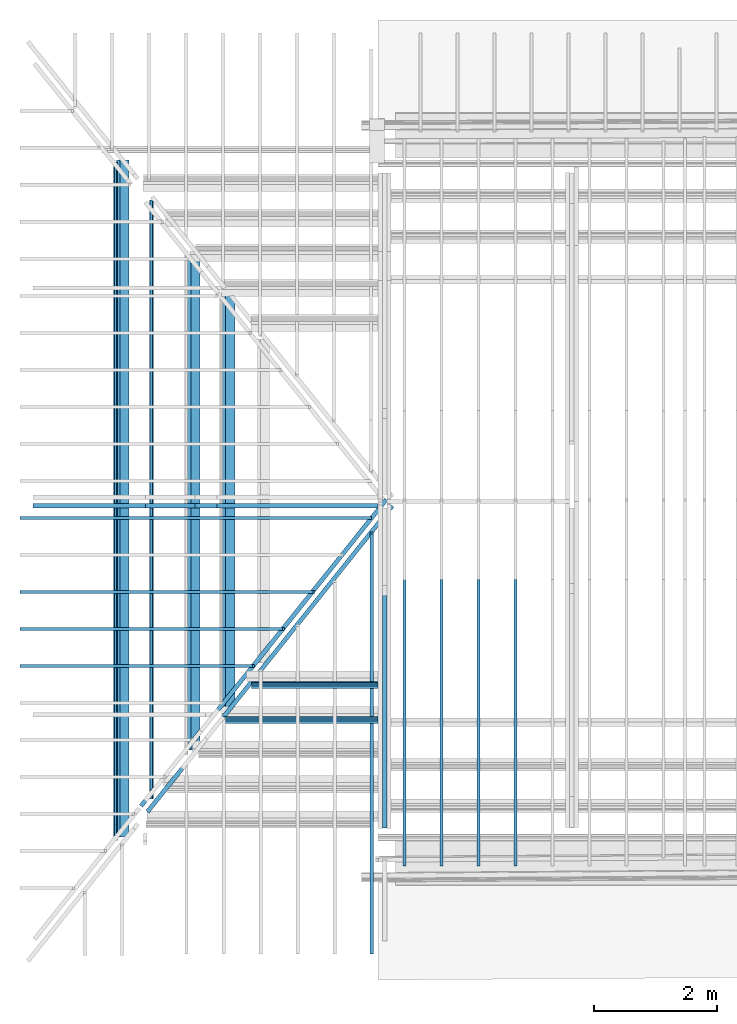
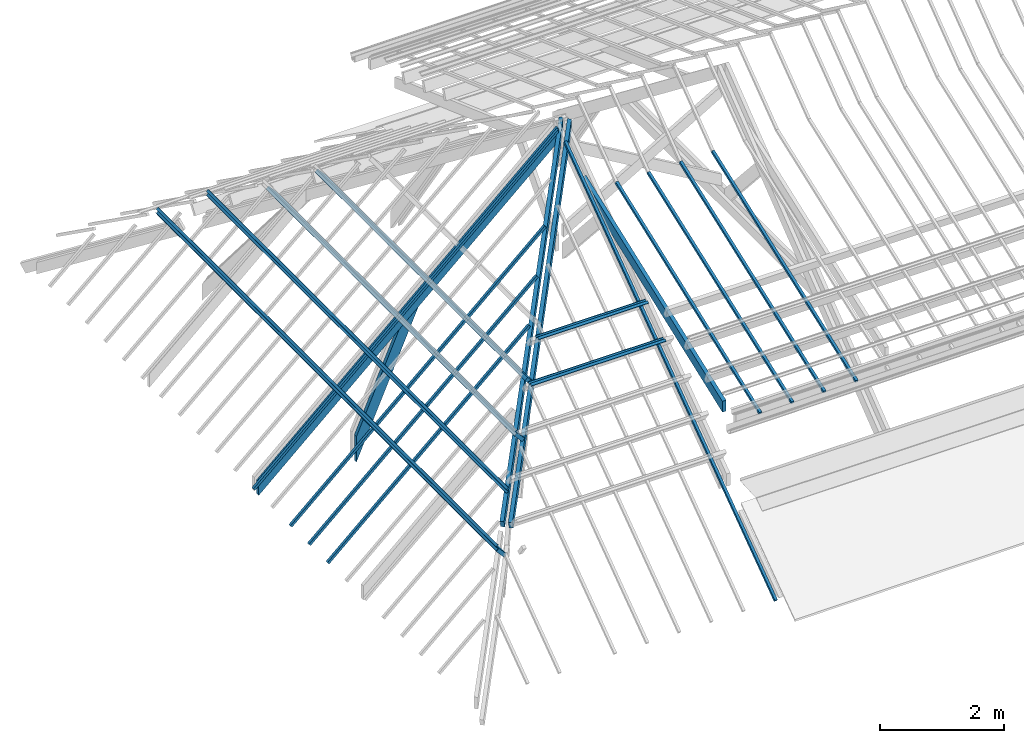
# One storey, part 2 of 18: 21 beams.
"""IFC2X3 building model written with IfcOpenShell, lengths in centimetres."""

from ifc_helpers import new_model, entity, si_unit, converted_unit, direction, frame, frame_2d, origin, origin_2d_with_axis, place, context, subcontext, project, spatial, polyline, circle_curve, parameter, trimmed, segment, composite_curve, rectangle, outline, extrude, clip, halfspace, material, type_object, element, save


model = new_model("IFC2X3")

# Units and contexts
model_context = context("Model", 3, precision=0.001, world=frame((0.0, 0.0, 13090.0)), true_north=direction((6.123233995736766e-17, 1.0)))
body_context = subcontext(model_context, "Body", "Model", "MODEL_VIEW")
ifc_project = project(units=[si_unit("LENGTHUNIT", "METRE", prefix="CENTI"), si_unit("AREAUNIT", "SQUARE_METRE"), si_unit("VOLUMEUNIT", "CUBIC_METRE"), converted_unit("PLANEANGLEUNIT", "DEGREE", entity("IfcPlaneAngleMeasure", 0.017453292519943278), si_unit("PLANEANGLEUNIT", "RADIAN"), dimensions=[0, 0, 0, 0, 0, 0, 0])], contexts=[model_context])

# Site, building, storey
site_placement = place(None, origin())
site = spatial("IfcSite", under=ifc_project, at=site_placement, Name="Default", CompositionType="ELEMENT")
building_placement = place(site_placement, origin())
building = spatial("IfcBuilding", under=site, at=building_placement, Name="e 39 logements et 22 maisons relais", CompositionType="ELEMENT")
storey_placement = place(building_placement, frame((0.0, 0.0, 610.0)))
storey = spatial("IfcBuildingStorey", under=building, at=storey_placement, Name="R+2", CompositionType="ELEMENT", Elevation=609.9999999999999)

# Beams
ifc_material_1 = material(Name="Bois - Bois de construction de dimensions courantes")
beam_type_1 = type_object("IfcBeamType", Name="Poutre - Bois de construction de dimensions courantes:70 220", PredefinedType="BEAM")
beam_1_placement = place(storey_placement, frame((-1229.478793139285, 514.0076677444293, -23.68763823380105), z_axis=(0.0, 0.0, 1.0), x_axis=(0.0, -1.0, 0.0)))
element("IfcBeam", 1, at=beam_1_placement, inside=storey, type_object=beam_type_1, material=ifc_material_1, Name="Poutre - Bois de construction de dimensions courantes:70 220", ObjectType="Poutre - Bois de construction de dimensions courantes:70 220", context=body_context, shape_type="SweptSolid", body=[
    extrude(rectangle(XDim=22.00000000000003, YDim=7.00000000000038, at=origin_2d_with_axis()), frame((136.4533911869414, 7.3604366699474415, -8.17459308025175), z_axis=(1.0, 0.0, 0.0), x_axis=(0.0, -0.6691306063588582, 0.7431448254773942)), (0.0, 0.0, 1.0), 803.6265658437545),
])
beam_2_placement = place(storey_placement, frame((-1172.8778374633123, 514.0076677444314, 27.030194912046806), z_axis=(0.0, 0.0, 1.0), x_axis=(0.0, -1.0, 0.0)))
element("IfcBeam", 2, at=beam_2_placement, inside=storey, type_object=beam_type_1, material=ifc_material_1, Name="Poutre - Bois de construction de dimensions courantes:70 220", ObjectType="Poutre - Bois de construction de dimensions courantes:70 220", context=body_context, shape_type="SweptSolid", body=[
    extrude(rectangle(XDim=22.00000000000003, YDim=7.000000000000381, at=origin_2d_with_axis()), frame((196.89081058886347, 7.360436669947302, -8.174593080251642), z_axis=(1.0, 0.0, 0.0), x_axis=(0.0, -0.6691306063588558, 0.7431448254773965)), (0.0, 0.0, 1.0), 679.797427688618),
])
beam_3_placement = place(storey_placement, frame((-1344.3936905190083, 514.0076677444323, -126.65824220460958), z_axis=(0.0, 0.0, 1.0), x_axis=(0.0, -1.0, 0.0)))
element("IfcBeam", 3, at=beam_3_placement, inside=storey, type_object=beam_type_1, material=ifc_material_1, Name="Poutre - Bois de construction de dimensions courantes:70 220", ObjectType="Poutre - Bois de construction de dimensions courantes:70 220", context=body_context, shape_type="SweptSolid", body=[
    extrude(rectangle(XDim=21.999999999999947, YDim=7.00000000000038, at=frame_2d((5.240252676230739e-14, 9.85878045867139e-14), x_axis=(1.0, 0.0))), frame((-16.402480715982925, 7.360436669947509, -8.174593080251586), z_axis=(1.0, 0.0, 0.0), x_axis=(0.0, -0.6691306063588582, 0.7431448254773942)), (0.0, 0.0, 1.0), 1097.1270014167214),
])
beam_type_2 = type_object("IfcBeamType", Name="Poutre - Bois de construction de dimensions courantes:70 200", PredefinedType="BEAM")
beam_4_placement = place(storey_placement, frame((-912.5294746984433, -680.6417512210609, 68.82913519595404), z_axis=(0.0, -0.3498184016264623, 0.9368175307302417), x_axis=(0.0, 0.9368175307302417, 0.3498184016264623)))
element("IfcBeam", 4, at=beam_4_placement, inside=storey, type_object=beam_type_2, material=ifc_material_1, Name="Poutre - Bois de construction de dimensions courantes:70 200", ObjectType="Poutre - Bois de construction de dimensions courantes:70 200", context=body_context, shape_type="Clipping", body=[
    clip(clip(extrude(rectangle(XDim=20.000000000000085, YDim=7.000000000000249, at=frame_2d((-5.395683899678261e-14, 0.0), x_axis=(0.0, 1.0))), frame((91.61969437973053, 0.0, -112.0), z_axis=(1.0, 0.0, 0.0), x_axis=(0.0, 1.0, 0.0)), (0.0, 0.0, 1.0), 491.12343439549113), halfspace(frame((394.6619849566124, 717.1728512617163, -163.1963336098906), z_axis=(0.2732323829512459, 0.0, -0.9619480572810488), x_axis=(0.0, -1.0, 0.0)), False)), halfspace(frame((112.1172156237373, 717.172851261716, -66.6467004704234), z_axis=(-0.9377691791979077, 0.0, 0.3472592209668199), x_axis=(0.0, -1.0, 0.0)), False)),
])
beam_5_placement = place(storey_placement, frame((-1378.752018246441, -29.897903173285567, -63.49404256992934), z_axis=(-0.6686368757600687, 0.0, 0.7435890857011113), x_axis=(0.7435890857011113, 0.0, 0.6686368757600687)))
element("IfcBeam", 5, at=beam_5_placement, inside=storey, type_object=beam_type_2, material=ifc_material_1, Name="Poutre - Bois de construction de dimensions courantes:70 200", ObjectType="Poutre - Bois de construction de dimensions courantes:70 200", context=body_context, shape_type="Clipping", body=[
    clip(clip(extrude(rectangle(XDim=20.0, YDim=7.00000000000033, at=frame_2d((0.0, 1.7763568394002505e-15), x_axis=(1.0, 0.0))), frame((-231.65183513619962, 0.0, -92.0), z_axis=(1.0, 0.0, 0.0), x_axis=(0.0, 0.0, -1.0)), (0.0, 0.0, 1.0), 770.7860524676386), halfspace(frame((-186.0607048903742, 813.2791105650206, -51.29823932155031), z_axis=(-0.7435890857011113, 0.0, 0.6686368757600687), x_axis=(0.0, -1.0, 0.0)), False)), halfspace(frame((507.02850038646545, 813.2791105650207, -117.70467255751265), z_axis=(0.7435890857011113, 0.0, -0.6686368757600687), x_axis=(0.0, -1.0, 0.0)), False)),
])
beam_6_placement = place(storey_placement, frame((-1342.9571952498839, -29.897903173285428, -134.54641095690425), z_axis=(0.9171693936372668, 0.0, -0.39849755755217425), x_axis=(0.39849755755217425, 0.0, 0.9171693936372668)))
element("IfcBeam", 6, at=beam_6_placement, inside=storey, type_object=beam_type_2, material=ifc_material_1, Name="Poutre - Bois de construction de dimensions courantes:70 200", ObjectType="Poutre - Bois de construction de dimensions courantes:70 200", context=body_context, shape_type="Clipping", body=[
    clip(clip(extrude(rectangle(XDim=20.000000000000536, YDim=7.00000000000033, at=origin_2d_with_axis()), frame((-127.35617217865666, 0.0, 92.0), z_axis=(1.0, 0.0, 0.0), x_axis=(0.0, 0.0, -1.0)), (0.0, 0.0, 1.0), 289.8981246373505), halfspace(frame((-161.32799510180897, 484.52953818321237, 116.76029243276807), z_axis=(-0.39849755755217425, 0.0, -0.9171693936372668), x_axis=(0.0, -1.0, 0.0)), False)), halfspace(frame((103.04553525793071, 484.52953818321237, 74.81846314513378), z_axis=(0.4155469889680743, 0.0, -0.9095717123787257), x_axis=(0.0, -1.0, 0.0)), False)),
])
beam_7_placement = place(storey_placement, frame((-1229.2729164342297, -441.2705019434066, 41.26438352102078), z_axis=(-0.3066122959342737, -0.38311927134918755, 0.8713257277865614), x_axis=(0.5444394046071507, 0.6802898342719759, 0.49070508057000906)))
element("IfcBeam", 7, at=beam_7_placement, inside=storey, type_object=beam_type_2, material=ifc_material_1, Name="Poutre - Bois de construction de dimensions courantes:70 200", ObjectType="Poutre - Bois de construction de dimensions courantes:70 200", context=body_context, shape_type="Clipping", body=[
    clip(extrude(rectangle(XDim=20.000000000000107, YDim=7.000000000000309, at=frame_2d((-7.105427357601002e-14, 0.0), x_axis=(1.0, 0.0))), frame((-170.57740151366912, 0.0, -92.0), z_axis=(1.0, 0.0, 0.0), x_axis=(0.0, 0.0, -1.0)), (0.0, 0.0, 1.0), 728.9905612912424), halfspace(frame((585.5654339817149, -748.6307979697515, -48.048633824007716), z_axis=(0.780967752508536, 0.0, -0.6245713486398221), x_axis=(0.0, 1.0, 0.0)), False)),
])
beam_8_placement = place(storey_placement, frame((-1239.7620324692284, -431.9711728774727, 41.66223729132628), z_axis=(-0.30661229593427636, -0.38311927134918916, 0.8713257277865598), x_axis=(0.5444394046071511, 0.6802898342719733, 0.49070508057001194)))
element("IfcBeam", 8, at=beam_8_placement, inside=storey, type_object=beam_type_2, material=ifc_material_1, Name="Poutre - Bois de construction de dimensions courantes:70 200", ObjectType="Poutre - Bois de construction de dimensions courantes:70 200", context=body_context, shape_type="Clipping", body=[
    clip(extrude(rectangle(XDim=20.000000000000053, YDim=7.000000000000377, at=frame_2d((2.7533531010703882e-14, -2.7045032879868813e-13), x_axis=(1.0, 0.0))), frame((-170.60151972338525, 0.0, -92.0), z_axis=(1.0, 0.0, 0.0), x_axis=(0.0, 0.0, -1.0)), (0.0, 0.0, 1.0), 729.8905612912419), halfspace(frame((586.4413157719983, -749.5307979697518, -48.04863382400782), z_axis=(0.7809677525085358, 0.0, -0.6245713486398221), x_axis=(0.0, 1.0, 0.0)), False)),
])
ifc_material_2 = material(Name="neuf")
beam_type_3 = type_object("IfcBeamType", Name="panne z:panne z", PredefinedType="BEAM")
beam_9_placement = place(storey_placement, frame((-570.9302602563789, -378.730348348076, 29.095931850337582), z_axis=(0.0, 0.0, 1.0), x_axis=(-1.0, 0.0, 0.0)))
element("IfcBeam", 9, at=beam_9_placement, inside=storey, type_object=beam_type_3, material=ifc_material_2, Name="panne z:panne z", ObjectType="panne z:panne z", context=body_context, shape_type="SweptSolid", body=[
    extrude(outline(composite_curve([segment(polyline([(-4.600000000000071, -3.0), (-0.30000000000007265, -3.0)]), True, "CONTINUOUS"), segment(trimmed(circle_curve(frame_2d((-0.2999999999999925, -2.599999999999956), x_axis=(0.0, -1.0)), 0.3999999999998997), [parameter(0.0)], [parameter(90.00000000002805)], True, "PARAMETER"), True, "CONTINUOUS"), segment(polyline([(0.09999999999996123, -2.599999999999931), (0.09999999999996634, 2.600000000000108)]), True, "CONTINUOUS"), segment(trimmed(circle_curve(frame_2d((0.2999999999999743, 2.600000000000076), x_axis=(-1.0, 0.0)), 0.2000000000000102), [parameter(270.00000000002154)], [parameter(0.0)], True, "PARAMETER"), False, "CONTINUOUS"), segment(polyline([(0.3000000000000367, 2.80000000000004), (4.600000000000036, 2.8000000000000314)]), True, "CONTINUOUS"), segment(trimmed(circle_curve(frame_2d((4.5999999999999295, 2.600000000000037), x_axis=(0.0, 1.0)), 0.20000000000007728), [parameter(270.00000000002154)], [parameter(0.0)], True, "PARAMETER"), False, "CONTINUOUS"), segment(polyline([(4.7999999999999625, 2.6000000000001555), (4.799999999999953, 1.0)]), True, "CONTINUOUS"), segment(polyline([(4.799999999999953, 1.0), (5.0, 1.0)]), True, "CONTINUOUS"), segment(polyline([(5.0, 1.0), (5.0, 2.6000000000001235)]), True, "CONTINUOUS"), segment(trimmed(circle_curve(frame_2d((4.600000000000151, 2.600000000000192), x_axis=(1.0, 0.0)), 0.39999999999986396), [parameter(0.0)], [parameter(90.00000000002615)], True, "PARAMETER"), True, "CONTINUOUS"), segment(polyline([(4.599999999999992, 3.0), (0.2999999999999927, 3.0)]), True, "CONTINUOUS"), segment(trimmed(circle_curve(frame_2d((0.2999999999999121, 2.600000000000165), x_axis=(0.0, 1.0)), 0.3999999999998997), [parameter(0.0)], [parameter(90.00000000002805)], True, "PARAMETER"), True, "CONTINUOUS"), segment(polyline([(-0.1000000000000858, 2.600000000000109), (-0.10000000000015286, -2.5999999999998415)]), True, "CONTINUOUS"), segment(trimmed(circle_curve(frame_2d((-0.30000000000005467, -2.5999999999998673), x_axis=(1.0, 0.0)), 0.2000000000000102), [parameter(270.00000000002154)], [parameter(0.0)], True, "PARAMETER"), False, "CONTINUOUS"), segment(polyline([(-0.30000000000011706, -2.799999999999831), (-4.600000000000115, -2.799999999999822)]), True, "CONTINUOUS"), segment(trimmed(circle_curve(frame_2d((-4.599999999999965, -2.599999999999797), x_axis=(0.0, -1.0)), 0.20000000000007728), [parameter(270.00000000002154)], [parameter(0.0)], True, "PARAMETER"), False, "CONTINUOUS"), segment(polyline([(-4.799999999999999, -2.599999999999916), (-4.799999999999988, -1.0)]), True, "CONTINUOUS"), segment(polyline([(-4.800000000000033, -1.0), (-5.0, -1.0)]), True, "CONTINUOUS"), segment(polyline([(-5.0, -1.0), (-5.0, -2.5999999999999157)]), True, "CONTINUOUS"), segment(trimmed(circle_curve(frame_2d((-4.600000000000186, -2.599999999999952), x_axis=(-1.0, 0.0)), 0.39999999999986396), [parameter(0.0)], [parameter(90.00000000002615)], True, "PARAMETER"), True, "CONTINUOUS")], self_intersect=False)), frame((352.09921444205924, -1.5385808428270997, -2.1973211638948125), z_axis=(1.0, 0.0, 0.0), x_axis=(0.0, -0.8191520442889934, 0.5735764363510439)), (0.0, 0.0, 1.0), 251.8524958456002),
])
beam_10_placement = place(storey_placement, frame((-570.9302602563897, -322.11508199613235, 70.09269054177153), z_axis=(0.0, 0.0, 1.0), x_axis=(-1.0, 0.0, 0.0)))
element("IfcBeam", 10, at=beam_10_placement, inside=storey, type_object=beam_type_3, material=ifc_material_2, Name="panne z:panne z", ObjectType="panne z:panne z", context=body_context, shape_type="SweptSolid", body=[
    extrude(outline(composite_curve([segment(polyline([(-4.600000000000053, -3.0), (-0.3000000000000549, -3.0)]), True, "CONTINUOUS"), segment(trimmed(circle_curve(frame_2d((-0.3000000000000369, -2.5999999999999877), x_axis=(0.0, -1.0)), 0.3999999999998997), [parameter(0.0)], [parameter(90.00000000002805)], True, "PARAMETER"), True, "CONTINUOUS"), segment(polyline([(0.09999999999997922, -2.6000000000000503), (0.0999999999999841, 2.599999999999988)]), True, "CONTINUOUS"), segment(trimmed(circle_curve(frame_2d((0.2999999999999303, 2.600000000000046), x_axis=(-1.0, 0.0)), 0.2000000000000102), [parameter(270.00000000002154)], [parameter(0.0)], True, "PARAMETER"), False, "CONTINUOUS"), segment(polyline([(0.30000000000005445, 2.7999999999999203), (4.599999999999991, 2.800000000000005)]), True, "CONTINUOUS"), segment(trimmed(circle_curve(frame_2d((4.599999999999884, 2.6000000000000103), x_axis=(0.0, 1.0)), 0.20000000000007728), [parameter(270.00000000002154)], [parameter(0.0)], True, "PARAMETER"), False, "CONTINUOUS"), segment(polyline([(4.799999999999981, 2.6000000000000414), (4.799999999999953, 1.0)]), True, "CONTINUOUS"), segment(polyline([(4.79999999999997, 1.0), (5.0, 1.0)]), True, "CONTINUOUS"), segment(polyline([(5.0, 1.0), (5.0, 2.6000000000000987)]), True, "CONTINUOUS"), segment(trimmed(circle_curve(frame_2d((4.600000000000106, 2.6000000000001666), x_axis=(1.0, 0.0)), 0.39999999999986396), [parameter(0.0)], [parameter(90.00000000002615)], True, "PARAMETER"), True, "CONTINUOUS"), segment(polyline([(4.6000000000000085, 3.0), (0.2999999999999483, 3.0)]), True, "CONTINUOUS"), segment(trimmed(circle_curve(frame_2d((0.29999999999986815, 2.6000000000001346), x_axis=(0.0, 1.0)), 0.3999999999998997), [parameter(0.0)], [parameter(90.00000000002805)], True, "PARAMETER"), True, "CONTINUOUS"), segment(polyline([(-0.10000000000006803, 2.599999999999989), (-0.10000000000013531, -2.5999999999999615)]), True, "CONTINUOUS"), segment(trimmed(circle_curve(frame_2d((-0.3000000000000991, -2.599999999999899), x_axis=(1.0, 0.0)), 0.2000000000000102), [parameter(270.00000000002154)], [parameter(0.0)], True, "PARAMETER"), False, "CONTINUOUS"), segment(polyline([(-0.3000000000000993, -2.799999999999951), (-4.6000000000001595, -2.7999999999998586)]), True, "CONTINUOUS"), segment(trimmed(circle_curve(frame_2d((-4.6000000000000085, -2.5999999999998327), x_axis=(0.0, -1.0)), 0.20000000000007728), [parameter(270.00000000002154)], [parameter(0.0)], True, "PARAMETER"), False, "CONTINUOUS"), segment(polyline([(-4.799999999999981, -2.6000000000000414), (-4.7999999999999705, -1.0)]), True, "CONTINUOUS"), segment(polyline([(-4.800000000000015, -1.0), (-5.0, -1.0)]), True, "CONTINUOUS"), segment(polyline([(-5.0, -1.0), (-5.0, -2.5999999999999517)]), True, "CONTINUOUS"), segment(trimmed(circle_curve(frame_2d((-4.600000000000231, -2.599999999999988), x_axis=(-1.0, 0.0)), 0.39999999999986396), [parameter(0.0)], [parameter(90.00000000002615)], True, "PARAMETER"), True, "CONTINUOUS")], self_intersect=False)), frame((352.099214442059, -1.5385808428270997, -2.1973211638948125), z_axis=(1.0, 0.0, 0.0), x_axis=(0.0, -0.8191520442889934, 0.5735764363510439)), (0.0, 0.0, 1.0), 205.65175482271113),
])
beam_11_placement = place(storey_placement, frame((-1361.30923631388, 514.0076677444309, -103.30282605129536), z_axis=(0.0, 0.0, 1.0), x_axis=(0.0, -1.0, 0.0)))
element("IfcBeam", 11, at=beam_11_placement, inside=storey, type_object=beam_type_3, material=ifc_material_2, Name="panne z:panne z", ObjectType="panne z:panne z", context=body_context, shape_type="SweptSolid", body=[
    extrude(outline(composite_curve([segment(trimmed(circle_curve(frame_2d((4.600000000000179, 2.5999999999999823), x_axis=(1.0, 0.0)), 0.3999999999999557), [parameter(0.0)], [parameter(90.00000000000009)], True, "PARAMETER"), True, "CONTINUOUS"), segment(polyline([(4.60000000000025, 3.0), (0.300000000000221, 3.0)]), True, "CONTINUOUS"), segment(trimmed(circle_curve(frame_2d((0.3000000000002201, 2.5999999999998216), x_axis=(0.0, 1.0)), 0.4000000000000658), [parameter(0.0)], [parameter(89.99999999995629)], True, "PARAMETER"), True, "CONTINUOUS"), segment(polyline([(-0.09999999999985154, 2.600000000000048), (-0.09999999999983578, -2.6000000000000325)]), True, "CONTINUOUS"), segment(trimmed(circle_curve(frame_2d((-0.29999999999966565, -2.6000000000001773), x_axis=(1.0, 0.0)), 0.19999999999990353), [parameter(269.9999999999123)], [parameter(0.0)], True, "PARAMETER"), False, "CONTINUOUS"), segment(polyline([(-0.299999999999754, -2.799999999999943), (-4.599999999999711, -2.8000000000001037)]), True, "CONTINUOUS"), segment(trimmed(circle_curve(frame_2d((-4.599999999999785, -2.600000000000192), x_axis=(0.0, -1.0)), 0.2000000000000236), [parameter(269.9999999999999)], [parameter(0.0)], True, "PARAMETER"), False, "CONTINUOUS"), segment(polyline([(-4.799999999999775, -2.6000000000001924), (-4.799999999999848, -1.0)]), True, "CONTINUOUS"), segment(polyline([(-4.799999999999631, -1.0), (-5.0, -1.0)]), True, "CONTINUOUS"), segment(polyline([(-5.0, -1.0), (-5.0, -2.6000000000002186)]), True, "CONTINUOUS"), segment(trimmed(circle_curve(frame_2d((-4.599999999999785, -2.600000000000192), x_axis=(-1.0, 0.0)), 0.3999999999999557), [parameter(0.0)], [parameter(90.00000000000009)], True, "PARAMETER"), True, "CONTINUOUS"), segment(polyline([(-4.599999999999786, -3.0), (-0.2999999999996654, -3.0)]), True, "CONTINUOUS"), segment(trimmed(circle_curve(frame_2d((-0.29999999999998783, -2.5999999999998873), x_axis=(0.0, -1.0)), 0.4000000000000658), [parameter(0.0)], [parameter(89.99999999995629)], True, "PARAMETER"), True, "CONTINUOUS"), segment(polyline([(0.10000000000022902, -2.5999999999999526), (0.10000000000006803, 2.599999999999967)]), True, "CONTINUOUS"), segment(trimmed(circle_curve(frame_2d((0.2999999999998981, 2.6000000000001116), x_axis=(-1.0, 0.0)), 0.19999999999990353), [parameter(269.9999999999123)], [parameter(0.0)], True, "PARAMETER"), False, "CONTINUOUS"), segment(polyline([(0.3000000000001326, 2.8000000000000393), (4.600000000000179, 2.7999999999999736)]), True, "CONTINUOUS"), segment(trimmed(circle_curve(frame_2d((4.600000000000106, 2.599999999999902), x_axis=(0.0, 1.0)), 0.20000000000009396), [parameter(270.0000000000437)], [parameter(0.0)], True, "PARAMETER"), False, "CONTINUOUS"), segment(polyline([(4.800000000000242, 2.600000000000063), (4.800000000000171, 1.0)]), True, "CONTINUOUS"), segment(polyline([(4.800000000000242, 1.0), (5.0, 1.0)]), True, "CONTINUOUS"), segment(polyline([(5.0, 1.0), (5.0, 2.5999999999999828)]), True, "CONTINUOUS")], self_intersect=False)), frame((-13.226269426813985, 12.500988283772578, -13.883754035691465), z_axis=(1.0, 0.0, 0.0), x_axis=(0.0, 0.743144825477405, 0.6691306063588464)), (0.0, 0.0, 1.0), 1099.7302960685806),
])
beam_12_placement = place(storey_placement, frame((-1303.2647605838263, 514.0076677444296, -51.291512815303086), z_axis=(0.0, 0.0, 1.0), x_axis=(0.0, -1.0, 0.0)))
element("IfcBeam", 12, at=beam_12_placement, inside=storey, type_object=beam_type_3, material=ifc_material_2, Name="panne z:panne z", ObjectType="panne z:panne z", context=body_context, shape_type="SweptSolid", body=[
    extrude(outline(composite_curve([segment(trimmed(circle_curve(frame_2d((4.600000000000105, 2.599999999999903), x_axis=(1.0, 0.0)), 0.3999999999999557), [parameter(0.0)], [parameter(90.00000000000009)], True, "PARAMETER"), True, "CONTINUOUS"), segment(polyline([(4.600000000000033, 3.0), (0.2999999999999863, 3.0)]), True, "CONTINUOUS"), segment(trimmed(circle_curve(frame_2d((0.3000000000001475, 2.599999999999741), x_axis=(0.0, 1.0)), 0.4000000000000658), [parameter(0.0)], [parameter(89.99999999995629)], True, "PARAMETER"), True, "CONTINUOUS"), segment(polyline([(-0.10000000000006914, 2.5999999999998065), (-0.10000000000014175, -2.6000000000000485)]), True, "CONTINUOUS"), segment(trimmed(circle_curve(frame_2d((-0.29999999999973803, -2.600000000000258), x_axis=(1.0, 0.0)), 0.19999999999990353), [parameter(269.9999999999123)], [parameter(0.0)], True, "PARAMETER"), False, "CONTINUOUS"), segment(polyline([(-0.2999999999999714, -2.8000000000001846), (-4.600000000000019, -2.8000000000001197)]), True, "CONTINUOUS"), segment(trimmed(circle_curve(frame_2d((-4.599999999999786, -2.6000000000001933), x_axis=(0.0, -1.0)), 0.20000000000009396), [parameter(270.0000000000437)], [parameter(0.0)], True, "PARAMETER"), False, "CONTINUOUS"), segment(polyline([(-4.799999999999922, -2.600000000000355), (-4.800000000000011, -1.0)]), True, "CONTINUOUS"), segment(polyline([(-4.79999999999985, -1.0), (-5.0, -1.0)]), True, "CONTINUOUS"), segment(polyline([(-5.0, -1.0), (-5.0, -2.6000000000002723)]), True, "CONTINUOUS"), segment(trimmed(circle_curve(frame_2d((-4.5999999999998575, -2.6000000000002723), x_axis=(-1.0, 0.0)), 0.3999999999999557), [parameter(0.0)], [parameter(90.00000000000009)], True, "PARAMETER"), True, "CONTINUOUS"), segment(polyline([(-4.59999999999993, -3.0), (-0.2999999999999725, -3.0)]), True, "CONTINUOUS"), segment(trimmed(circle_curve(frame_2d((-0.3000000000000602, -2.5999999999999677), x_axis=(0.0, -1.0)), 0.4000000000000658), [parameter(0.0)], [parameter(89.99999999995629)], True, "PARAMETER"), True, "CONTINUOUS"), segment(polyline([(0.1000000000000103, -2.6000000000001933), (0.09999999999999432, 2.599999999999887)]), True, "CONTINUOUS"), segment(trimmed(circle_curve(frame_2d((0.2999999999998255, 2.6000000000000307), x_axis=(-1.0, 0.0)), 0.19999999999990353), [parameter(269.9999999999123)], [parameter(0.0)], True, "PARAMETER"), False, "CONTINUOUS"), segment(polyline([(0.2999999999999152, 2.7999999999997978), (4.599999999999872, 2.7999999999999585)]), True, "CONTINUOUS"), segment(trimmed(circle_curve(frame_2d((4.600000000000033, 2.599999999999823), x_axis=(0.0, 1.0)), 0.20000000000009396), [parameter(270.0000000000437)], [parameter(0.0)], True, "PARAMETER"), False, "CONTINUOUS"), segment(polyline([(4.800000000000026, 2.5999999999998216), (4.800000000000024, 1.0)]), True, "CONTINUOUS"), segment(polyline([(4.800000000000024, 1.0), (5.0, 1.0)]), True, "CONTINUOUS"), segment(polyline([(5.0, 1.0), (5.0, 2.600000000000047)]), True, "CONTINUOUS")], self_intersect=False)), frame((48.320435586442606, 12.500988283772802, -13.883754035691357), z_axis=(1.0, 0.0, 0.0), x_axis=(0.0, 0.743144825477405, 0.6691306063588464)), (0.0, 0.0, 1.0), 971.0546877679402),
])
beam_type_4 = type_object("IfcBeamType", Name="Poutre - Bois de construction de dimensions courantes:50 50", PredefinedType="BEAM")
beam_13_placement = place(storey_placement, frame((-1389.908594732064, -49.59790317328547, -50.6248321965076), z_axis=(-0.6673418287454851, 0.0, 0.7447515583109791), x_axis=(0.7447515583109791, 0.0, 0.6673418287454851)))
element("IfcBeam", 13, at=beam_13_placement, inside=storey, type_object=beam_type_4, material=ifc_material_1, Name="Poutre - Bois de construction de dimensions courantes:50 50", ObjectType="Poutre - Bois de construction de dimensions courantes:50 50", context=body_context, shape_type="Clipping", body=[
    clip(extrude(rectangle(XDim=5.000000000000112, YDim=5.000000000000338, at=frame_2d((4.0190073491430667e-14, -6.661338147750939e-15), x_axis=(1.0, 0.0))), frame((-226.35367557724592, 0.0, -84.50000000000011), z_axis=(1.0, 0.0, 0.0), x_axis=(0.0, 0.0, -1.0)), (0.0, 0.0, 1.0), 765.4878929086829), halfspace(frame((507.0285003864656, 804.4070720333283, -117.7046725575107), z_axis=(0.7435890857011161, 0.0, -0.6686368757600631), x_axis=(0.0, -1.0, 0.0)), False)),
])
beam_14_placement = place(storey_placement, frame((-700.3172162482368, -682.4540034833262, 59.79760523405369), z_axis=(0.0, -0.34610942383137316, 0.9381941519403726), x_axis=(0.0, 0.9381941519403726, 0.34610942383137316)))
element("IfcBeam", 14, at=beam_14_placement, inside=storey, type_object=beam_type_4, material=ifc_material_1, Name="Poutre - Bois de construction de dimensions courantes:50 50", ObjectType="Poutre - Bois de construction de dimensions courantes:50 50", context=body_context, shape_type="SweptSolid", body=[
    extrude(rectangle(XDim=4.999999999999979, YDim=5.000000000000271, at=frame_2d((0.0, 5.417888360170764e-14), x_axis=(1.0, 0.0))), frame((47.46098828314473, 0.0, -71.5000000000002), z_axis=(1.0, 0.0, 0.0), x_axis=(0.0, 0.0, -1.0)), (0.0, 0.0, 1.0), 496.5080480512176),
])
beam_15_placement = place(storey_placement, frame((-760.3172162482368, -682.454003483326, 59.79760523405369), z_axis=(0.0, -0.34610942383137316, 0.9381941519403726), x_axis=(0.0, 0.9381941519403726, 0.34610942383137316)))
element("IfcBeam", 15, at=beam_15_placement, inside=storey, type_object=beam_type_4, material=ifc_material_1, Name="Poutre - Bois de construction de dimensions courantes:50 50", ObjectType="Poutre - Bois de construction de dimensions courantes:50 50", context=body_context, shape_type="SweptSolid", body=[
    extrude(rectangle(XDim=4.999999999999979, YDim=5.000000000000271, at=frame_2d((0.0, -5.417888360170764e-14), x_axis=(1.0, 0.0))), frame((47.46098828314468, 0.0, -71.50000000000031), z_axis=(1.0, 0.0, 0.0), x_axis=(0.0, 0.0, -1.0)), (0.0, 0.0, 1.0), 496.5080480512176),
])
beam_16_placement = place(storey_placement, frame((-820.3172162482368, -682.4540034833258, 59.79760523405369), z_axis=(0.0, -0.34610942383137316, 0.9381941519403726), x_axis=(0.0, 0.9381941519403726, 0.34610942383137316)))
element("IfcBeam", 16, at=beam_16_placement, inside=storey, type_object=beam_type_4, material=ifc_material_1, Name="Poutre - Bois de construction de dimensions courantes:50 50", ObjectType="Poutre - Bois de construction de dimensions courantes:50 50", context=body_context, shape_type="SweptSolid", body=[
    extrude(rectangle(XDim=4.999999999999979, YDim=5.000000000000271, at=frame_2d((0.0, 5.417888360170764e-14), x_axis=(1.0, 0.0))), frame((47.460988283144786, 0.0, -71.50000000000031), z_axis=(1.0, 0.0, 0.0), x_axis=(0.0, 0.0, -1.0)), (0.0, 0.0, 1.0), 496.5080480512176),
])
beam_17_placement = place(storey_placement, frame((-880.3172162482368, -682.6495149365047, 59.539863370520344), z_axis=(0.0, -0.3498184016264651, 0.9368175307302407), x_axis=(0.0, 0.9368175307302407, 0.3498184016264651)))
element("IfcBeam", 17, at=beam_17_placement, inside=storey, type_object=beam_type_4, material=ifc_material_1, Name="Poutre - Bois de construction de dimensions courantes:50 50", ObjectType="Poutre - Bois de construction de dimensions courantes:50 50", context=body_context, shape_type="SweptSolid", body=[
    extrude(rectangle(XDim=4.999999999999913, YDim=5.000000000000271, at=frame_2d((1.2034817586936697e-13, -5.417888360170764e-14), x_axis=(1.0, 0.0))), frame((47.460988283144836, 0.0, -71.5000000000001), z_axis=(1.0, 0.0, 0.0), x_axis=(0.0, 0.0, -1.0)), (0.0, 0.0, 1.0), 496.5080480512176),
])
beam_18_placement = place(storey_placement, frame((-933.5172162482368, -597.4654356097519, -53.59070882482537), z_axis=(0.0, -0.5865050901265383, 0.8099455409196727), x_axis=(0.0, 0.8099455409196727, 0.5865050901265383)))
element("IfcBeam", 18, at=beam_18_placement, inside=storey, type_object=beam_type_4, material=ifc_material_1, Name="Poutre - Bois de construction de dimensions courantes:50 50", ObjectType="Poutre - Bois de construction de dimensions courantes:50 50", context=body_context, shape_type="SweptSolid", body=[
    extrude(rectangle(XDim=4.999999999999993, YDim=5.000000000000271, at=frame_2d((-5.3734794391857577e-14, -5.417888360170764e-14), x_axis=(1.0, 0.0))), frame((-246.67388331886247, 0.0, -71.50000000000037), z_axis=(1.0, 0.0, 0.0), x_axis=(0.0, 0.0, -1.0)), (0.0, 0.0, 1.0), 841.3211833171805),
])
beam_19_placement = place(storey_placement, frame((-1389.908594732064, -169.59790317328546, -50.6248321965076), z_axis=(-0.6673418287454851, 0.0, 0.7447515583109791), x_axis=(0.7447515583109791, 0.0, 0.6673418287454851)))
element("IfcBeam", 19, at=beam_19_placement, inside=storey, type_object=beam_type_4, material=ifc_material_1, Name="Poutre - Bois de construction de dimensions courantes:50 50", ObjectType="Poutre - Bois de construction de dimensions courantes:50 50", context=body_context, shape_type="SweptSolid", body=[
    extrude(rectangle(XDim=4.999999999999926, YDim=5.000000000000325, at=origin_2d_with_axis()), frame((-226.35367557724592, 0.0, -84.50000000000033), z_axis=(1.0, 0.0, 0.0), x_axis=(0.0, 0.0, -1.0)), (0.0, 0.0, 1.0), 638.184562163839),
])
beam_20_placement = place(storey_placement, frame((-1389.908594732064, -229.59790317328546, -50.6248321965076), z_axis=(-0.6673418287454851, 0.0, 0.7447515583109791), x_axis=(0.7447515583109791, 0.0, 0.6673418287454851)))
element("IfcBeam", 20, at=beam_20_placement, inside=storey, type_object=beam_type_4, material=ifc_material_1, Name="Poutre - Bois de construction de dimensions courantes:50 50", ObjectType="Poutre - Bois de construction de dimensions courantes:50 50", context=body_context, shape_type="SweptSolid", body=[
    extrude(rectangle(XDim=4.999999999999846, YDim=5.000000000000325, at=frame_2d((6.039613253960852e-14, 0.0), x_axis=(1.0, 0.0))), frame((-226.35367557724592, 0.0, -84.50000000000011), z_axis=(1.0, 0.0, 0.0), x_axis=(0.0, 0.0, -1.0)), (0.0, 0.0, 1.0), 571.6369560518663),
])
beam_21_placement = place(storey_placement, frame((-1389.908594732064, -289.5979031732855, -50.6248321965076), z_axis=(-0.6673418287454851, 0.0, 0.7447515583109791), x_axis=(0.7447515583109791, 0.0, 0.6673418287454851)))
element("IfcBeam", 21, at=beam_21_placement, inside=storey, type_object=beam_type_4, material=ifc_material_1, Name="Poutre - Bois de construction de dimensions courantes:50 50", ObjectType="Poutre - Bois de construction de dimensions courantes:50 50", context=body_context, shape_type="SweptSolid", body=[
    extrude(rectangle(XDim=4.999999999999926, YDim=5.000000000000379, at=origin_2d_with_axis()), frame((-226.35367557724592, 0.0, -84.50000000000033), z_axis=(1.0, 0.0, 0.0), x_axis=(0.0, 0.0, -1.0)), (0.0, 0.0, 1.0), 505.54226835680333),
])

save(model, "model.ifc")
